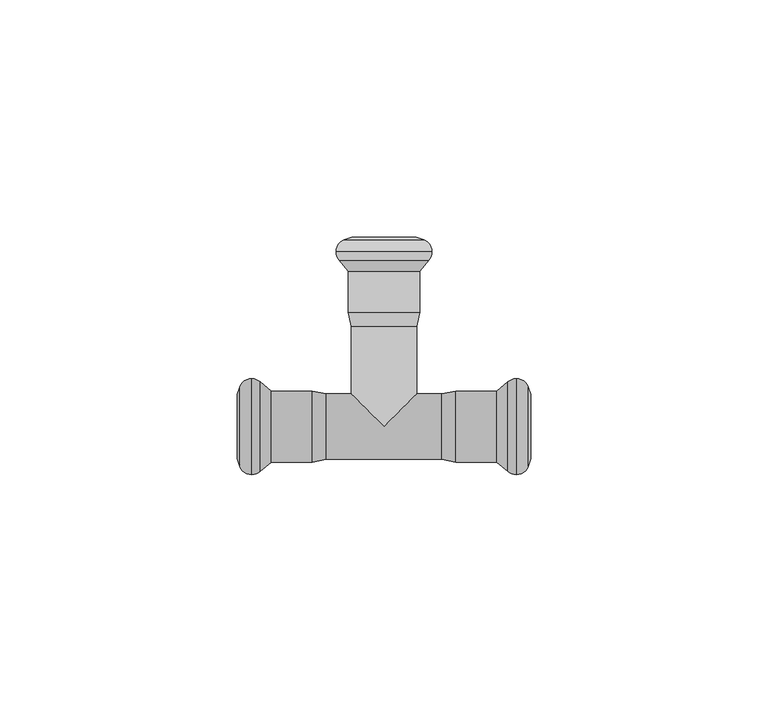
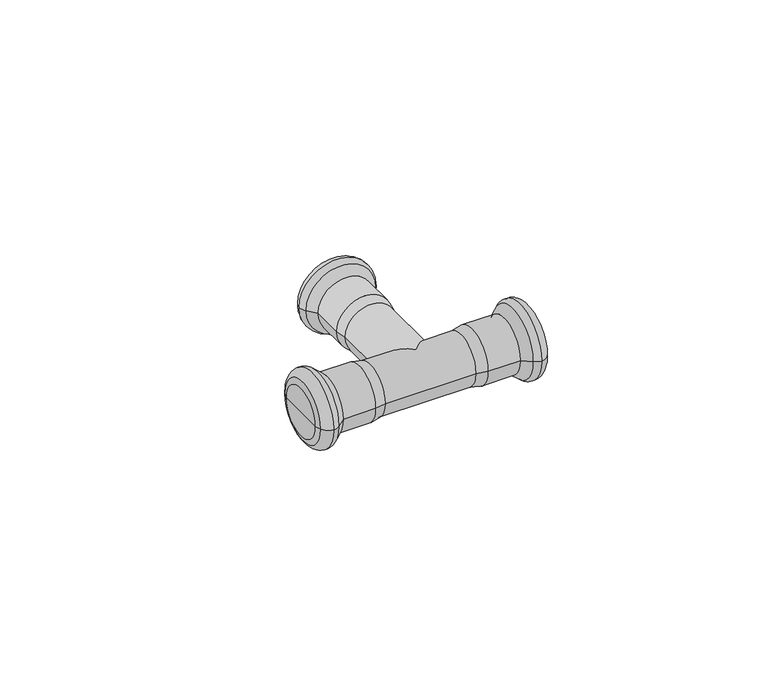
"""IFC4 building model written with IfcOpenShell, lengths in millimetres: pipe fitting geometry, KAN-therm Steel trójnik : KAN-therm Steel trójnik."""

from ifc_helpers import new_model, si_unit, point, frame, origin, place, context, project, spatial, polyline, circle_curve, ellipse_curve, trimmed, source, transform, mapped, element, save
from ifc_brep_helpers import plane_surface, cylinder_surface, revolved_surface, advanced_brep


def pipe_fitting_6daf88bd(model_context):
    return source(origin(), model_context, "Body", "AdvancedBrep", [
        advanced_brep(
        [(26.0922627, -9.4370225, 0.0), (26.0922627, 9.4370225, 0.0), (27.8921278, 10.125, 0.0), (27.8921278, -10.125, 0.0), (23.7838092, -7.5, 0.0), (23.7838092, 7.5, 0.0), (15.1180407, -7.5, 0.0), (15.1180407, 7.5, 0.0), (12.2, -6.9, 0.0), (12.2, 6.9, 0.0), (-12.2, -6.9, 0.0), (-12.2, 6.9, 0.0), (-6.9, 6.9, 0.0), (0.0, 0.0, -6.9), (6.9, 6.9, 0.0), (0.0, 0.0, 6.9), (-15.1180407, -7.5, 0.0), (-15.1180407, 7.5, 0.0), (-23.7838092, -7.5, 0.0), (-23.7838092, 7.5, 0.0), (-26.0922627, -9.4370225, 0.0), (-26.0922627, 9.4370225, 0.0), (-27.8921278, -10.125, 0.0), (-27.8921278, 10.125, 0.0), (-30.432052, -8.3484544, 0.0), (-30.432052, 8.3484544, 0.0), (-31.0, -6.7880302, 0.0), (-31.0, 6.7880302, 0.0), (-31.0, 0.0, 0.0), (31.0, -6.7880302, 0.0), (31.0, 6.7880302, 0.0), (31.0, 0.0, 0.0), (30.432052, -8.3484544, 0.0), (30.432052, 8.3484544, 0.0), (9.4370225, 35.0922627, 0.0), (-9.4370225, 35.0922627, 0.0), (-10.125, 36.8921278, 0.0), (10.125, 36.8921278, 0.0), (7.5, 32.7838092, 0.0), (-7.5, 32.7838092, 0.0), (7.5, 24.1180407, 0.0), (-7.5, 24.1180407, 0.0), (6.7880302, 40.0, 0.0), (-6.7880302, 40.0, 0.0), (0.0, 40.0, 0.0), (8.3484544, 39.432052, 0.0), (-8.3484544, 39.432052, 0.0), (6.9, 21.2, 0.0), (-6.9, 21.2, 0.0)],
        [
            (0, 1, circle_curve(frame((26.0922627, 0.0, 0.0), z_axis=(1.0, 0.0, 0.0), x_axis=(0.0, 1.0, 0.0)), 9.4370225)),
            (1, 2, circle_curve(frame((27.8935049, 7.4230333, 0.0), z_axis=(0.0, 0.0, -1.0), x_axis=(1.0, 0.0, 0.0)), 2.701967)),
            (2, 3, circle_curve(frame((27.8921278, 0.0, 0.0), z_axis=(-1.0, 0.0, 0.0), x_axis=(0.0, 1.0, 0.0)), 10.125)),
            (3, 0, circle_curve(frame((27.8935049, -7.4230333, 0.0), z_axis=(0.0, 0.0, -1.0), x_axis=(1.0, 0.0, 0.0)), 2.701967)),
            (1, 0, circle_curve(frame((26.0922627, 0.0, 0.0), z_axis=(1.0, 0.0, 0.0), x_axis=(0.0, 1.0, 0.0)), 9.4370225)),
            (3, 2, circle_curve(frame((27.8921278, 0.0, 0.0), z_axis=(-1.0, 0.0, 0.0), x_axis=(0.0, 1.0, 0.0)), 10.125)),
            (0, 4),
            (4, 5, circle_curve(frame((23.7838092, 0.0, 0.0), z_axis=(1.0, 0.0, 0.0), x_axis=(0.0, 1.0, 0.0)), 7.5)),
            (5, 1),
            (5, 4, circle_curve(frame((23.7838092, 0.0, 0.0), z_axis=(1.0, 0.0, 0.0), x_axis=(0.0, 1.0, 0.0)), 7.5)),
            (4, 6),
            (6, 7, circle_curve(frame((15.1180407, 0.0, 0.0), z_axis=(1.0, 0.0, 0.0), x_axis=(0.0, 1.0, 0.0)), 7.5)),
            (7, 5),
            (7, 6, circle_curve(frame((15.1180407, 0.0, 0.0), z_axis=(1.0, 0.0, 0.0), x_axis=(0.0, 1.0, 0.0)), 7.5)),
            (6, 8),
            (8, 9, circle_curve(frame((12.2, 0.0, 0.0), z_axis=(1.0, 0.0, 0.0), x_axis=(0.0, 1.0, 0.0)), 6.9)),
            (9, 7),
            (9, 8, circle_curve(frame((12.2, 0.0, 0.0), z_axis=(1.0, 0.0, 0.0), x_axis=(0.0, 1.0, 0.0)), 6.9)),
            (8, 10),
            (10, 11, circle_curve(frame((-12.2, 0.0, 0.0), z_axis=(1.0, 0.0, 0.0), x_axis=(0.0, 1.0, 0.0)), 6.9)),
            (11, 12),
            (12, 13, ellipse_curve(frame((0.0, 0.0, 0.0), z_axis=(-0.7071067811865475, -0.7071067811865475, 0.0), x_axis=(-0.7071067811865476, 0.7071067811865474, 0.0)), 9.7580736, 6.9)),
            (13, 14, ellipse_curve(frame((0.0, 0.0, 0.0), z_axis=(0.7071067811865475, -0.7071067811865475, 0.0), x_axis=(-0.7071067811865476, -0.7071067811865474, 0.0)), 9.7580736, 6.9)),
            (14, 9),
            (14, 15, ellipse_curve(frame((0.0, 0.0, 0.0), z_axis=(0.7071067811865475, -0.7071067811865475, 0.0), x_axis=(-0.7071067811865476, -0.7071067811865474, 0.0)), 9.7580736, 6.9)),
            (15, 12, ellipse_curve(frame((0.0, 0.0, 0.0), z_axis=(-0.7071067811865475, -0.7071067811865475, 0.0), x_axis=(-0.7071067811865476, 0.7071067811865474, 0.0)), 9.7580736, 6.9)),
            (11, 10, circle_curve(frame((-12.2, 0.0, 0.0), z_axis=(1.0, 0.0, 0.0), x_axis=(0.0, 1.0, 0.0)), 6.9)),
            (10, 16),
            (16, 17, circle_curve(frame((-15.1180407, 0.0, 0.0), z_axis=(1.0, 0.0, 0.0), x_axis=(0.0, 1.0, 0.0)), 7.5)),
            (17, 11),
            (17, 16, circle_curve(frame((-15.1180407, 0.0, 0.0), z_axis=(1.0, 0.0, 0.0), x_axis=(0.0, 1.0, 0.0)), 7.5)),
            (16, 18),
            (18, 19, circle_curve(frame((-23.7838092, 0.0, 0.0), z_axis=(1.0, 0.0, 0.0), x_axis=(0.0, 1.0, 0.0)), 7.5)),
            (19, 17),
            (19, 18, circle_curve(frame((-23.7838092, 0.0, 0.0), z_axis=(1.0, 0.0, 0.0), x_axis=(0.0, 1.0, 0.0)), 7.5)),
            (18, 20),
            (20, 21, circle_curve(frame((-26.0922627, 0.0, 0.0), z_axis=(1.0, 0.0, 0.0), x_axis=(0.0, 1.0, 0.0)), 9.4370225)),
            (21, 19),
            (21, 20, circle_curve(frame((-26.0922627, 0.0, 0.0), z_axis=(1.0, 0.0, 0.0), x_axis=(0.0, 1.0, 0.0)), 9.4370225)),
            (20, 22, circle_curve(frame((-27.8935049, -7.4230333, 0.0), z_axis=(0.0, 0.0, -1.0), x_axis=(1.0, 0.0, 0.0)), 2.701967)),
            (22, 23, circle_curve(frame((-27.8921278, 0.0, 0.0), z_axis=(1.0, 0.0, 0.0), x_axis=(0.0, 1.0, 0.0)), 10.125)),
            (23, 21, circle_curve(frame((-27.8935049, 7.4230333, 0.0), z_axis=(0.0, 0.0, -1.0), x_axis=(1.0, 0.0, 0.0)), 2.701967)),
            (23, 22, circle_curve(frame((-27.8921278, 0.0, 0.0), z_axis=(1.0, 0.0, 0.0), x_axis=(0.0, 1.0, 0.0)), 10.125)),
            (22, 24, circle_curve(frame((-27.89488, -7.4249993, 0.0), z_axis=(0.0, 0.0, -1.0), x_axis=(1.0, 0.0, 0.0)), 2.7000021)),
            (24, 25, circle_curve(frame((-30.432052, 0.0, 0.0), z_axis=(1.0, 0.0, 0.0), x_axis=(0.0, 1.0, 0.0)), 8.3484544)),
            (25, 23, circle_curve(frame((-27.89488, 7.4249993, 0.0), z_axis=(0.0, 0.0, -1.0), x_axis=(1.0, 0.0, 0.0)), 2.7000021)),
            (25, 24, circle_curve(frame((-30.432052, 0.0, 0.0), z_axis=(1.0, 0.0, 0.0), x_axis=(0.0, 1.0, 0.0)), 8.3484544)),
            (24, 26),
            (26, 27, circle_curve(frame((-31.0, 0.0, 0.0), z_axis=(1.0, 0.0, 0.0), x_axis=(0.0, 1.0, 0.0)), 6.7880302)),
            (27, 25),
            (27, 26, circle_curve(frame((-31.0, 0.0, 0.0), z_axis=(1.0, 0.0, 0.0), x_axis=(0.0, 1.0, 0.0)), 6.7880302)),
            (26, 28),
            (28, 27),
            (29, 30, circle_curve(frame((31.0, 0.0, 0.0), z_axis=(1.0, 0.0, 0.0), x_axis=(0.0, 1.0, 0.0)), 6.7880302)),
            (30, 31),
            (31, 29),
            (30, 29, circle_curve(frame((31.0, 0.0, 0.0), z_axis=(1.0, 0.0, 0.0), x_axis=(0.0, 1.0, 0.0)), 6.7880302)),
            (29, 32),
            (32, 33, circle_curve(frame((30.432052, 0.0, 0.0), z_axis=(1.0, 0.0, 0.0), x_axis=(0.0, 1.0, 0.0)), 8.3484544)),
            (33, 30),
            (33, 32, circle_curve(frame((30.432052, 0.0, 0.0), z_axis=(1.0, 0.0, 0.0), x_axis=(0.0, 1.0, 0.0)), 8.3484544)),
            (2, 33, circle_curve(frame((27.89488, 7.4249993, 0.0), z_axis=(0.0, 0.0, -1.0), x_axis=(1.0, 0.0, 0.0)), 2.7000021)),
            (32, 3, circle_curve(frame((27.89488, -7.4249993, 0.0), z_axis=(0.0, 0.0, -1.0), x_axis=(1.0, 0.0, 0.0)), 2.7000021)),
            (34, 35, circle_curve(frame((0.0, 35.0922627, 0.0), z_axis=(0.0, 1.0, 0.0), x_axis=(-1.0, 0.0, 0.0)), 9.4370225)),
            (35, 36, circle_curve(frame((-7.4230333, 36.8935049, 0.0), z_axis=(0.0, 0.0, -1.0), x_axis=(1.0, 0.0, 0.0)), 2.701967)),
            (36, 37, circle_curve(frame((0.0, 36.8921278, 0.0), z_axis=(0.0, -1.0, 0.0), x_axis=(-1.0, 0.0, 0.0)), 10.125)),
            (37, 34, circle_curve(frame((7.4230333, 36.8935049, 0.0), z_axis=(0.0, 0.0, -1.0), x_axis=(-1.0, 0.0, 0.0)), 2.701967)),
            (35, 34, circle_curve(frame((0.0, 35.0922627, 0.0), z_axis=(0.0, 1.0, 0.0), x_axis=(-1.0, 0.0, 0.0)), 9.4370225)),
            (37, 36, circle_curve(frame((0.0, 36.8921278, 0.0), z_axis=(0.0, -1.0, 0.0), x_axis=(-1.0, 0.0, 0.0)), 10.125)),
            (34, 38),
            (38, 39, circle_curve(frame((0.0, 32.7838092, 0.0), z_axis=(0.0, 1.0, 0.0), x_axis=(-1.0, 0.0, 0.0)), 7.5)),
            (39, 35),
            (39, 38, circle_curve(frame((0.0, 32.7838092, 0.0), z_axis=(0.0, 1.0, 0.0), x_axis=(-1.0, 0.0, 0.0)), 7.5)),
            (38, 40),
            (40, 41, circle_curve(frame((0.0, 24.1180407, 0.0), z_axis=(0.0, 1.0, 0.0), x_axis=(-1.0, 0.0, 0.0)), 7.5)),
            (41, 39),
            (41, 40, circle_curve(frame((0.0, 24.1180407, 0.0), z_axis=(0.0, 1.0, 0.0), x_axis=(-1.0, 0.0, 0.0)), 7.5)),
            (42, 43, circle_curve(frame((0.0, 40.0, 0.0), z_axis=(0.0, 1.0, 0.0), x_axis=(-1.0, 0.0, 0.0)), 6.7880302)),
            (43, 44),
            (44, 42),
            (43, 42, circle_curve(frame((0.0, 40.0, 0.0), z_axis=(0.0, 1.0, 0.0), x_axis=(-1.0, 0.0, 0.0)), 6.7880302)),
            (42, 45),
            (45, 46, circle_curve(frame((0.0, 39.432052, 0.0), z_axis=(0.0, 1.0, 0.0), x_axis=(-1.0, 0.0, 0.0)), 8.3484544)),
            (46, 43),
            (46, 45, circle_curve(frame((0.0, 39.432052, 0.0), z_axis=(0.0, 1.0, 0.0), x_axis=(-1.0, 0.0, 0.0)), 8.3484544)),
            (36, 46, circle_curve(frame((-7.4249993, 36.89488, 0.0), z_axis=(0.0, 0.0, -1.0), x_axis=(1.0, 0.0, 0.0)), 2.7000021)),
            (45, 37, circle_curve(frame((7.4249993, 36.89488, 0.0), z_axis=(0.0, 0.0, -1.0), x_axis=(-1.0, 0.0, 0.0)), 2.7000021)),
            (40, 47),
            (47, 48, circle_curve(frame((0.0, 21.2, 0.0), z_axis=(0.0, 1.0, 0.0), x_axis=(-1.0, 0.0, 0.0)), 6.9)),
            (48, 41),
            (48, 47, circle_curve(frame((0.0, 21.2, 0.0), z_axis=(0.0, 1.0, 0.0), x_axis=(-1.0, 0.0, 0.0)), 6.9)),
            (47, 14),
            (12, 48),
        ],
        [
            revolved_surface(trimmed(ellipse_curve(frame((27.8935049, 7.4230333, 0.0), z_axis=(0.0, 0.0, 1.0), x_axis=(1.0, 0.0, 0.0)), 2.701967, 2.701967), [point((27.8921278, 10.125, 0.0))], [point((26.0922627, 9.4370225, 0.0))], True, "CARTESIAN"), (1344.742668, 0.0, 0.0), (-1.0, 0.0, 0.0)),
            revolved_surface(polyline([(26.0922627, 9.4370225, 0.0), (23.7838092, 7.5, 0.0)]), (1344.742668, 0.0, 0.0), (-1.0, 0.0, 0.0)),
            cylinder_surface(frame((1344.742668, 0.0, 0.0), z_axis=(-1.0, 0.0, 0.0), x_axis=(0.0, 1.0, 0.0)), 7.5),
            revolved_surface(polyline([(15.1180407, 7.5, 0.0), (12.2, 6.9, 0.0)]), (1344.742668, 0.0, 0.0), (-1.0, 0.0, 0.0)),
            cylinder_surface(frame((1344.742668, 0.0, 0.0), z_axis=(-1.0, 0.0, 0.0), x_axis=(0.0, 1.0, 0.0)), 6.9),
            revolved_surface(polyline([(-12.2, 6.9, 0.0), (-15.1180407, 7.5, 0.0)]), (1344.742668, 0.0, 0.0), (-1.0, 0.0, 0.0)),
            revolved_surface(polyline([(-23.7838092, 7.5, 0.0), (-26.0922627, 9.4370225, 0.0)]), (1344.742668, 0.0, 0.0), (-1.0, 0.0, 0.0)),
            revolved_surface(trimmed(ellipse_curve(frame((-27.8935049, 7.4230333, 0.0), z_axis=(0.0, 0.0, 1.0), x_axis=(1.0, 0.0, 0.0)), 2.701967, 2.701967), [point((-26.0922627, 9.4370225, 0.0))], [point((-27.8921278, 10.125, 0.0))], True, "CARTESIAN"), (1344.742668, 0.0, 0.0), (-1.0, 0.0, 0.0)),
            revolved_surface(trimmed(ellipse_curve(frame((-27.89488, 7.4249993, 0.0), z_axis=(0.0, 0.0, 1.0), x_axis=(1.0, 0.0, 0.0)), 2.7000021, 2.7000021), [point((-27.8921278, 10.125, 0.0))], [point((-30.432052, 8.3484544, 0.0))], True, "CARTESIAN"), (1344.742668, 0.0, 0.0), (-1.0, 0.0, 0.0)),
            revolved_surface(polyline([(-30.432052, 8.3484544, 0.0), (-31.0, 6.7880302, 0.0)]), (1344.742668, 0.0, 0.0), (-1.0, 0.0, 0.0)),
            plane_surface(frame((-31.0, 0.0, 0.0), z_axis=(-1.0, 0.0, 0.0), x_axis=(0.0, 1.0, 0.0))),
            plane_surface(frame((31.0, 0.0, 0.0), z_axis=(1.0, 0.0, 0.0), x_axis=(0.0, 1.0, 0.0))),
            revolved_surface(polyline([(31.0, 6.7880302, 0.0), (30.432052, 8.3484544, 0.0)]), (1344.742668, 0.0, 0.0), (-1.0, 0.0, 0.0)),
            revolved_surface(trimmed(ellipse_curve(frame((27.89488, 7.4249993, 0.0), z_axis=(0.0, 0.0, 1.0), x_axis=(1.0, 0.0, 0.0)), 2.7000021, 2.7000021), [point((30.432052, 8.3484544, 0.0))], [point((27.8921278, 10.125, 0.0))], True, "CARTESIAN"), (1344.742668, 0.0, 0.0), (-1.0, 0.0, 0.0)),
            revolved_surface(trimmed(ellipse_curve(frame((-7.4230333, 36.8935049, 0.0), z_axis=(0.0, 0.0, 1.0), x_axis=(1.0, 0.0, 0.0)), 2.701967, 2.701967), [point((-10.125, 36.8921278, 0.0))], [point((-9.4370225, 35.0922627, 0.0))], True, "CARTESIAN"), (0.0, 2001.0, 0.0), (0.0, -1.0, 0.0)),
            revolved_surface(polyline([(-9.4370225, 35.0922627, 0.0), (-7.5, 32.7838092, 0.0)]), (0.0, 2001.0, 0.0), (0.0, -1.0, 0.0)),
            cylinder_surface(frame((0.0, 2001.0, 0.0), z_axis=(0.0, -1.0, 0.0), x_axis=(-1.0, 0.0, 0.0)), 7.5),
            plane_surface(frame((0.0, 40.0, 0.0), z_axis=(0.0, 1.0, 0.0), x_axis=(-1.0, 0.0, 0.0))),
            revolved_surface(polyline([(-6.7880302, 40.0, 0.0), (-8.3484544, 39.432052, 0.0)]), (0.0, 2001.0, 0.0), (0.0, -1.0, 0.0)),
            revolved_surface(trimmed(ellipse_curve(frame((-7.4249993, 36.89488, 0.0), z_axis=(0.0, 0.0, 1.0), x_axis=(1.0, 0.0, 0.0)), 2.7000021, 2.7000021), [point((-8.3484544, 39.432052, 0.0))], [point((-10.125, 36.8921278, 0.0))], True, "CARTESIAN"), (0.0, 2001.0, 0.0), (0.0, -1.0, 0.0)),
            revolved_surface(polyline([(-7.5, 24.1180407, 0.0), (-6.9, 21.2, 0.0)]), (0.0, 2001.0, 0.0), (0.0, -1.0, 0.0)),
            cylinder_surface(frame((0.0, 2001.0, 0.0), z_axis=(0.0, -1.0, 0.0), x_axis=(-1.0, 0.0, 0.0)), 6.9),
        ],
        [
            (0, [[1, 2, 3, 4]]),
            (0, [[-2, 5, -4, 6]]),
            (1, [[-1, 7, 8, 9]]),
            (1, [[-5, -9, 10, -7]]),
            (2, [[-8, 11, 12, 13]]),
            (2, [[-10, -13, 14, -11]]),
            (3, [[-12, 15, 16, 17]]),
            (3, [[-14, -17, 18, -15]]),
            (4, [[-16, 19, 20, 21, 22, 23, 24]]),
            (4, [[-18, -24, 25, 26, -21, 27, -19]]),
            (5, [[-20, 28, 29, 30]]),
            (5, [[-27, -30, 31, -28]]),
            (2, [[-29, 32, 33, 34]]),
            (2, [[-31, -34, 35, -32]]),
            (6, [[-33, 36, 37, 38]]),
            (6, [[-35, -38, 39, -36]]),
            (7, [[-37, 40, 41, 42]]),
            (7, [[-39, -42, 43, -40]]),
            (8, [[-41, 44, 45, 46]]),
            (8, [[-43, -46, 47, -44]]),
            (9, [[-45, 48, 49, 50]]),
            (9, [[-47, -50, 51, -48]]),
            (10, [[-49, 52, 53]]),
            (10, [[-51, -53, -52]]),
            (11, [[54, 55, 56]]),
            (11, [[-55, 57, -56]]),
            (12, [[-54, 58, 59, 60]]),
            (12, [[-57, -60, 61, -58]]),
            (13, [[-3, 62, -59, 63]]),
            (13, [[-6, -63, -61, -62]]),
            (14, [[64, 65, 66, 67]]),
            (14, [[-65, 68, -67, 69]]),
            (15, [[-64, 70, 71, 72]]),
            (15, [[-68, -72, 73, -70]]),
            (16, [[-71, 74, 75, 76]]),
            (16, [[-73, -76, 77, -74]]),
            (17, [[78, 79, 80]]),
            (17, [[-79, 81, -80]]),
            (18, [[-78, 82, 83, 84]]),
            (18, [[-81, -84, 85, -82]]),
            (19, [[-66, 86, -83, 87]]),
            (19, [[-69, -87, -85, -86]]),
            (20, [[-75, 88, 89, 90]]),
            (20, [[-77, -90, 91, -88]]),
            (21, [[-89, 92, -23, -22, 93]]),
            (21, [[-91, -93, -26, -25, -92]]),
        ],
    ),
    ])


if __name__ == "__main__":
    model = new_model("IFC4")
    model_context = context("Model", 3, world=origin())
    ifc_project = project(units=[si_unit("LENGTHUNIT", "METRE", prefix="MILLI")], contexts=[model_context])
    site = spatial("IfcSite", under=ifc_project)
    building = spatial("IfcBuilding", under=site)
    placement = place(None, origin())
    pipe_fitting_shape = pipe_fitting_6daf88bd(model_context)
    element("IfcPipeFitting", 1, ObjectType="KAN-therm Steel trójnik : KAN-therm Steel trójnik", at=placement, inside=building, context=model_context, shape_type="MappedRepresentation", body=[
        mapped(pipe_fitting_shape, transform((0.0, 0.0, 0.0), x_axis=(1.0, 0.0, 0.0), y_axis=(0.0, 1.0, 0.0), z_axis=(0.0, 0.0, 1.0))),
    ])
    save(model, "model.ifc")
